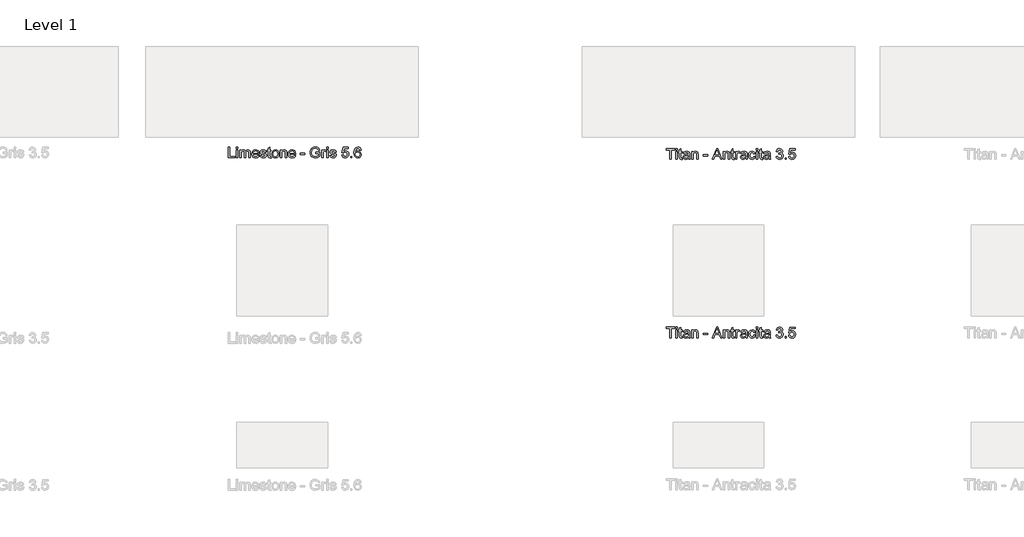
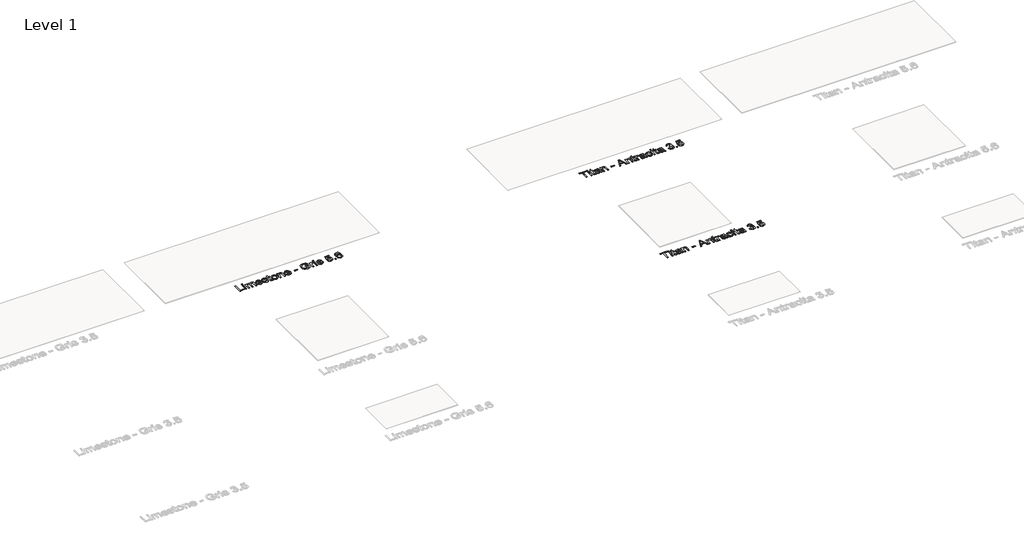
# One storey, part 7 of 80: 3 proxies.
"""IFC4 building model written with IfcOpenShell, lengths in millimetres."""

from ifc_helpers import new_model, si_unit, origin, origin_with_axes, place, context, project, spatial, polyline, outline, extrude, element, save

model = new_model("IFC4")

# Units and contexts
model_context = context("Model", 3, world=origin())
ifc_project = project(units=[si_unit("LENGTHUNIT", "METRE", prefix="MILLI")], contexts=[model_context])

# Site, building, storey
site = spatial("IfcSite", under=ifc_project)
building = spatial("IfcBuilding", under=site)
storey = spatial("IfcBuildingStorey", under=building, Name="Level 1", Elevation=0.0)

# Proxies
placement = place(None, origin())
element("IfcBuildingElementProxy", 1, Name="24\" Arial", ObjectType="24\" Arial", at=placement, inside=storey, context=model_context, shape_type="SweptSolid", body=[
    extrude(outline(polyline([(-15795.3838002, -16654.869717), (-15795.3838002, -16536.7158709), (-15780.6145694, -16536.7158709), (-15780.6145694, -16640.1004862), (-15721.5376464, -16640.1004862), (-15721.5376464, -16654.869717), (-15795.3838002, -16654.869717)])), origin_with_axes(), (0.0, 0.0, 1.0), 2.0),
    extrude(outline(polyline([(-15706.7684156, -16551.4851016), (-15706.7684156, -16536.7158709), (-15691.9991848, -16536.7158709), (-15691.9991848, -16551.4851016), (-15706.7684156, -16551.4851016)])), origin_with_axes(), (0.0, 0.0, 1.0), 2.0),
    extrude(outline(polyline([(-15706.7684156, -16654.869717), (-15706.7684156, -16568.1004862), (-15691.9991848, -16568.1004862), (-15691.9991848, -16654.869717), (-15706.7684156, -16654.869717)])), origin_with_axes(), (0.0, 0.0, 1.0), 2.0),
    extrude(outline(polyline([(-15669.8453387, -16654.869717), (-15669.8453387, -16568.1004862), (-15655.0761079, -16568.1004862), (-15655.0761079, -16582.3793324), (-15644.9222617, -16570.682217), (-15630.4703387, -16566.2543324), (-15615.6722617, -16570.7687555), (-15607.5376464, -16583.4177939), (-15596.0136079, -16570.5451978), (-15581.4607233, -16566.2543324), (-15570.3585598, -16568.0391882), (-15562.1482233, -16573.3937555), (-15557.074906, -16582.4622651), (-15555.3838002, -16595.3889478), (-15555.3838002, -16654.869717), (-15570.153031, -16654.869717), (-15570.153031, -16601.7351016), (-15571.5232233, -16589.4033709), (-15576.4847617, -16583.3312555), (-15584.9222617, -16581.0235632), (-15592.9234637, -16582.5019285), (-15599.4463002, -16586.9370247), (-15603.7840406, -16594.6317362), (-15605.2299541, -16605.8889478), (-15605.2299541, -16654.869717), (-15619.9991848, -16654.869717), (-15619.9991848, -16600.0908709), (-15623.4174541, -16585.7831785), (-15634.6241848, -16581.0235632), (-15645.5568771, -16584.1966401), (-15652.8261079, -16593.4851016), (-15655.0761079, -16611.1101016), (-15655.0761079, -16654.869717), (-15669.8453387, -16654.869717)])), origin_with_axes(), (0.0, 0.0, 1.0), 2.0),
    extrude(outline(polyline([(-15472.4799541, -16629.0235632), (-15457.9991848, -16630.869717), (-15463.2167329, -16641.7807747), (-15471.5424541, -16649.9370247), (-15482.7888483, -16655.0211593), (-15496.7684156, -16656.7158709), (-15514.0977425, -16653.791592), (-15527.4318771, -16645.0187555), (-15535.934281, -16630.9670728), (-15538.7684156, -16612.2062555), (-15535.9054348, -16592.8144285), (-15527.3164925, -16578.3120247), (-15514.1626464, -16569.2687555), (-15497.6049541, -16566.2543324), (-15481.5628867, -16569.2615439), (-15468.7443771, -16578.2831785), (-15460.3393291, -16592.7567362), (-15457.5376464, -16612.119717), (-15457.6241848, -16616.1004862), (-15523.9991848, -16616.1004862), (-15521.4426944, -16627.1557747), (-15515.5039925, -16635.2831785), (-15506.9330791, -16640.2807747), (-15496.4799541, -16641.9466401), (-15481.9991848, -16638.8601016), (-15472.4799541, -16629.0235632)]), holes=[polyline([(-15523.9991848, -16601.3312555), (-15472.3068771, -16601.3312555), (-15478.2203387, -16587.9466401), (-15486.8309156, -16582.7543324), (-15497.6626464, -16581.0235632), (-15515.8501464, -16586.5476016), (-15521.5725021, -16593.0055343), (-15523.9991848, -16601.3312555)])]), origin_with_axes(), (0.0, 0.0, 1.0), 2.0),
    extrude(outline(polyline([(-15448.3068771, -16629.0235632), (-15433.5376464, -16627.1774093), (-15426.7011079, -16638.1389478), (-15411.0376464, -16641.9466401), (-15395.9799541, -16638.4562555), (-15391.0761079, -16630.2639478), (-15396.0088002, -16623.6293324), (-15411.2107233, -16619.4177939), (-15433.4511079, -16612.1918324), (-15443.1578387, -16603.7543324), (-15446.4607233, -16591.8408709), (-15443.8068771, -16580.8360632), (-15436.5664925, -16572.4274093), (-15427.1770694, -16568.057217), (-15414.4703387, -16566.2543324), (-15396.4991848, -16569.1533709), (-15385.0761079, -16576.9995247), (-15379.9991848, -16590.2543324), (-15394.7684156, -16592.1004862), (-15400.3213002, -16583.9514478), (-15413.3164925, -16581.0235632), (-15427.4511079, -16583.8216401), (-15431.6914925, -16590.3408709), (-15429.9318771, -16594.6389478), (-15424.4222617, -16597.8985632), (-15411.7011079, -16601.0427939), (-15390.0232233, -16607.994717), (-15379.9559156, -16615.869717), (-15376.3068771, -16628.7062555), (-15380.590531, -16642.8408709), (-15392.9511079, -16653.0956785), (-15411.2395694, -16656.7158709), (-15426.1313964, -16654.9706785), (-15436.9991848, -16649.7351016), (-15444.2539925, -16641.0668324), (-15448.3068771, -16629.0235632)])), origin_with_axes(), (0.0, 0.0, 1.0), 2.0),
    extrude(outline(polyline([(-15328.3068771, -16642.5524093), (-15326.4607233, -16655.3024093), (-15337.5088002, -16656.7158709), (-15349.8838002, -16654.2639478), (-15356.0568771, -16647.8312555), (-15357.8453387, -16631.0716401), (-15357.8453387, -16582.869717), (-15368.9222617, -16582.869717), (-15368.9222617, -16568.1004862), (-15357.8453387, -16568.1004862), (-15357.8453387, -16547.0139478), (-15343.0761079, -16538.3312555), (-15343.0761079, -16568.1004862), (-15328.3068771, -16568.1004862), (-15328.3068771, -16582.869717), (-15343.0761079, -16582.869717), (-15343.0761079, -16630.6389478), (-15342.2972617, -16638.2543324), (-15339.7732233, -16640.9514478), (-15334.7395694, -16641.9466401), (-15328.3068771, -16642.5524093)])), origin_with_axes(), (0.0, 0.0, 1.0), 2.0),
    extrude(outline(polyline([(-15317.2299541, -16611.4851016), (-15314.0352425, -16590.5644285), (-15304.4511079, -16575.8601016), (-15292.6097617, -16568.6557747), (-15278.4318771, -16566.2543324), (-15262.9162521, -16569.1786112), (-15250.5232233, -16577.9514478), (-15242.3994252, -16591.8805343), (-15239.6914925, -16610.2735632), (-15244.4799541, -16636.5524093), (-15258.4270694, -16651.4226016), (-15278.4318771, -16656.7158709), (-15294.1350021, -16653.8024093), (-15306.5136079, -16645.0620247), (-15314.5508675, -16630.8408709), (-15317.2299541, -16611.4851016)]), holes=[polyline([(-15302.4607233, -16611.4562555), (-15300.7515887, -16624.822842), (-15295.6241848, -16634.3456785), (-15287.9078387, -16640.0463997), (-15278.4318771, -16641.9466401), (-15268.9991848, -16640.0355824), (-15261.2972617, -16634.3024093), (-15256.1698579, -16624.6533709), (-15254.4607233, -16610.994717), (-15256.1806752, -16598.0175535), (-15261.340531, -16588.6245247), (-15269.0532714, -16582.9238035), (-15278.4318771, -16581.0235632), (-15287.9078387, -16582.916592), (-15295.6241848, -16588.5956785), (-15300.7515887, -16598.0968805), (-15302.4607233, -16611.4562555)])]), origin_with_axes(), (0.0, 0.0, 1.0), 2.0),
    extrude(outline(polyline([(-15223.0761079, -16654.869717), (-15223.0761079, -16568.1004862), (-15208.3068771, -16568.1004862), (-15208.3068771, -16580.2158709), (-15197.0136079, -16569.744717), (-15181.5953387, -16566.2543324), (-15167.6482233, -16569.0668324), (-15158.1289925, -16576.4514478), (-15153.7011079, -16587.3120247), (-15152.9222617, -16601.5908709), (-15152.9222617, -16654.869717), (-15167.6914925, -16654.869717), (-15167.6914925, -16603.5812555), (-15169.3934156, -16590.5139478), (-15175.4078387, -16583.6052939), (-15185.5472617, -16581.0235632), (-15201.5713002, -16586.8216401), (-15206.6229829, -16595.2230824), (-15208.3068771, -16608.8312555), (-15208.3068771, -16654.869717), (-15223.0761079, -16654.869717)])), origin_with_axes(), (0.0, 0.0, 1.0), 2.0),
    extrude(outline(polyline([(-15071.8645694, -16629.0235632), (-15057.3838002, -16630.869717), (-15062.6013483, -16641.7807747), (-15070.9270694, -16649.9370247), (-15082.1734637, -16655.0211593), (-15096.153031, -16656.7158709), (-15113.4823579, -16653.791592), (-15126.8164925, -16645.0187555), (-15135.3188964, -16630.9670728), (-15138.153031, -16612.2062555), (-15135.2900502, -16592.8144285), (-15126.7011079, -16578.3120247), (-15113.5472617, -16569.2687555), (-15096.9895694, -16566.2543324), (-15080.9475021, -16569.2615439), (-15068.1289925, -16578.2831785), (-15059.7239444, -16592.7567362), (-15056.9222617, -16612.119717), (-15057.0088002, -16616.1004862), (-15123.3838002, -16616.1004862), (-15120.8273098, -16627.1557747), (-15114.8886079, -16635.2831785), (-15106.3176944, -16640.2807747), (-15095.8645694, -16641.9466401), (-15081.3838002, -16638.8601016), (-15071.8645694, -16629.0235632)]), holes=[polyline([(-15123.3838002, -16601.3312555), (-15071.6914925, -16601.3312555), (-15077.6049541, -16587.9466401), (-15086.215531, -16582.7543324), (-15097.0472617, -16581.0235632), (-15115.2347617, -16586.5476016), (-15120.9571175, -16593.0055343), (-15123.3838002, -16601.3312555)])]), origin_with_axes(), (0.0, 0.0, 1.0), 2.0),
    extrude(outline(polyline([(-15003.3838002, -16619.7927939), (-15003.3838002, -16605.0235632), (-14957.2299541, -16605.0235632), (-14957.2299541, -16619.7927939), (-15003.3838002, -16619.7927939)])), origin_with_axes(), (0.0, 0.0, 1.0), 2.0),
    extrude(outline(polyline([(-14837.2299541, -16608.7158709), (-14837.2299541, -16593.9466401), (-14789.2299541, -16593.9466401), (-14789.2299541, -16638.1101016), (-14812.9270694, -16652.0427939), (-14837.9799541, -16656.7158709), (-14854.5484637, -16654.8588997), (-14869.5232233, -16649.2879862), (-14881.9631271, -16640.197842), (-14890.9270694, -16627.7831785), (-14896.3465406, -16612.8913516), (-14898.153031, -16596.369717), (-14896.3537521, -16579.729092), (-14890.9559156, -16564.2495247), (-14882.1830791, -16551.2651497), (-14870.2588002, -16542.1101016), (-14855.7347617, -16536.6798132), (-14839.1626464, -16534.869717), (-14816.0568771, -16539.0668324), (-14799.8597617, -16550.7495247), (-14790.9318771, -16570.2927939), (-14804.5472617, -16574.1293324), (-14811.2828387, -16560.4706785), (-14822.7924541, -16552.5956785), (-14839.3934156, -16549.6389478), (-14858.3020694, -16552.8264478), (-14871.1674541, -16561.1918324), (-14878.7684156, -16572.5716401), (-14883.3838002, -16595.7639478), (-14881.9955791, -16609.8877459), (-14877.8309156, -16621.5091401), (-14871.0160117, -16630.5451978), (-14861.6770694, -16636.9129862), (-14839.1626464, -16641.9466401), (-14818.9559156, -16638.1533709), (-14803.9991848, -16630.0620247), (-14803.9991848, -16608.7158709), (-14837.2299541, -16608.7158709)])), origin_with_axes(), (0.0, 0.0, 1.0), 2.0),
    extrude(outline(polyline([(-14767.0761079, -16654.869717), (-14767.0761079, -16568.1004862), (-14754.153031, -16568.1004862), (-14754.153031, -16580.9370247), (-14744.9799541, -16569.1101016), (-14735.7491848, -16566.2543324), (-14720.9222617, -16570.8120247), (-14725.8549541, -16584.0524093), (-14736.2395694, -16581.0235632), (-14744.590531, -16583.9370247), (-14749.9126464, -16592.0139478), (-14752.3068771, -16609.2639478), (-14752.3068771, -16654.869717), (-14767.0761079, -16654.869717)])), origin_with_axes(), (0.0, 0.0, 1.0), 2.0),
    extrude(outline(polyline([(-14711.6914925, -16551.4851016), (-14711.6914925, -16536.7158709), (-14696.9222617, -16536.7158709), (-14696.9222617, -16551.4851016), (-14711.6914925, -16551.4851016)])), origin_with_axes(), (0.0, 0.0, 1.0), 2.0),
    extrude(outline(polyline([(-14711.6914925, -16654.869717), (-14711.6914925, -16568.1004862), (-14696.9222617, -16568.1004862), (-14696.9222617, -16654.869717), (-14711.6914925, -16654.869717)])), origin_with_axes(), (0.0, 0.0, 1.0), 2.0),
    extrude(outline(polyline([(-14680.3068771, -16629.0235632), (-14665.5376464, -16627.1774093), (-14658.7011079, -16638.1389478), (-14643.0376464, -16641.9466401), (-14627.9799541, -16638.4562555), (-14623.0761079, -16630.2639478), (-14628.0088002, -16623.6293324), (-14643.2107233, -16619.4177939), (-14665.4511079, -16612.1918324), (-14675.1578387, -16603.7543324), (-14678.4607233, -16591.8408709), (-14675.8068771, -16580.8360632), (-14668.5664925, -16572.4274093), (-14659.1770694, -16568.057217), (-14646.4703387, -16566.2543324), (-14628.4991848, -16569.1533709), (-14617.0761079, -16576.9995247), (-14611.9991848, -16590.2543324), (-14626.7684156, -16592.1004862), (-14632.3213002, -16583.9514478), (-14645.3164925, -16581.0235632), (-14659.4511079, -16583.8216401), (-14663.6914925, -16590.3408709), (-14661.9318771, -16594.6389478), (-14656.4222617, -16597.8985632), (-14643.7011079, -16601.0427939), (-14622.0232233, -16607.994717), (-14611.9559156, -16615.869717), (-14608.3068771, -16628.7062555), (-14612.590531, -16642.8408709), (-14624.9511079, -16653.0956785), (-14643.2395694, -16656.7158709), (-14658.1313964, -16654.9706785), (-14668.9991848, -16649.7351016), (-14676.2539925, -16641.0668324), (-14680.3068771, -16629.0235632)])), origin_with_axes(), (0.0, 0.0, 1.0), 2.0),
    extrude(outline(polyline([(-14549.2299541, -16623.4851016), (-14534.4607233, -16621.6389478), (-14527.0184156, -16636.8552939), (-14511.5857233, -16641.9466401), (-14500.9991848, -16640.1762074), (-14493.0664925, -16634.8649093), (-14488.1121656, -16626.6257266), (-14486.4607233, -16616.0716401), (-14488.0075983, -16606.1341401), (-14492.6482233, -16598.5331785), (-14500.418656, -16593.7086593), (-14511.3549541, -16592.1004862), (-14524.3213002, -16594.6677939), (-14532.6145694, -16601.3312555), (-14547.3838002, -16599.4851016), (-14534.4607233, -16538.5620247), (-14477.2299541, -16538.5620247), (-14477.2299541, -16553.3312555), (-14522.5184156, -16553.3312555), (-14528.8357233, -16585.869717), (-14518.2852425, -16579.4658709), (-14507.2299541, -16577.3312555), (-14493.4306752, -16579.9778901), (-14481.9751464, -16587.9177939), (-14474.262406, -16600.0187555), (-14471.6914925, -16615.1485632), (-14474.0063964, -16629.9177939), (-14480.9511079, -16642.5524093), (-14494.2491848, -16653.1750055), (-14511.6434156, -16656.7158709), (-14526.1494252, -16654.4406305), (-14537.7059156, -16647.6149093), (-14545.6277906, -16637.0319766), (-14549.2299541, -16623.4851016)])), origin_with_axes(), (0.0, 0.0, 1.0), 2.0),
    extrude(outline(polyline([(-14451.3838002, -16654.869717), (-14451.3838002, -16640.1004862), (-14436.6145694, -16640.1004862), (-14436.6145694, -16654.869717), (-14451.3838002, -16654.869717)])), origin_with_axes(), (0.0, 0.0, 1.0), 2.0),
    extrude(outline(polyline([(-14336.9222617, -16568.1004862), (-14351.6914925, -16569.9466401), (-14357.2876464, -16557.6293324), (-14363.9871656, -16553.0211593), (-14372.0857233, -16551.4851016), (-14385.4126464, -16555.0620247), (-14395.4943771, -16568.4899093), (-14399.6914925, -16594.8120247), (-14386.6674541, -16583.0283709), (-14370.528031, -16579.1774093), (-14356.8838002, -16581.8096209), (-14345.4318771, -16589.7062555), (-14337.6650502, -16601.7711593), (-14335.0761079, -16616.9081785), (-14339.9511079, -16637.2879862), (-14353.3645694, -16651.7110632), (-14372.7203387, -16656.7158709), (-14389.4763483, -16653.3985632), (-14402.8213002, -16643.4466401), (-14411.5508675, -16625.8793324), (-14414.4607233, -16599.7158709), (-14411.2299541, -16570.3000055), (-14401.5376464, -16550.1870247), (-14388.3044733, -16540.0836593), (-14371.1626464, -16536.7158709), (-14358.2035117, -16538.8000055), (-14347.8261079, -16545.0524093), (-14340.5568771, -16554.9826978), (-14336.9222617, -16568.1004862)]), holes=[polyline([(-14399.6914925, -16616.6774093), (-14396.2732233, -16629.4706785), (-14387.1866848, -16638.7591401), (-14373.8741848, -16641.9466401), (-14364.1277906, -16640.2951978), (-14356.465531, -16635.3408709), (-14351.5003867, -16627.5524093), (-14349.8453387, -16617.3985632), (-14351.4787521, -16607.6521689), (-14356.3789925, -16600.2206785), (-14364.1710598, -16595.5151497), (-14374.4799541, -16593.9466401), (-14384.2119252, -16595.5151497), (-14392.3501464, -16600.2206785), (-14397.856156, -16607.4718805), (-14399.6914925, -16616.6774093)])]), origin_with_axes(), (0.0, 0.0, 1.0), 2.0),
])
element("IfcBuildingElementProxy", 2, Name="24\" Arial", ObjectType="24\" Arial", at=placement, inside=storey, context=model_context, shape_type="SweptSolid", body=[
    extrude(outline(polyline([(-10942.7684156, -16671.3584739), (-10942.7684156, -16567.9738585), (-10981.5376464, -16567.9738585), (-10981.5376464, -16553.2046277), (-10889.2299541, -16553.2046277), (-10889.2299541, -16567.9738585), (-10927.9991848, -16567.9738585), (-10927.9991848, -16671.3584739), (-10942.7684156, -16671.3584739)])), origin_with_axes(), (0.0, 0.0, 1.0), 2.0),
    extrude(outline(polyline([(-10874.4607233, -16671.3584739), (-10874.4607233, -16584.5892431), (-10859.6914925, -16584.5892431), (-10859.6914925, -16671.3584739), (-10874.4607233, -16671.3584739)])), origin_with_axes(), (0.0, 0.0, 1.0), 2.0),
    extrude(outline(polyline([(-10874.4607233, -16567.9738585), (-10874.4607233, -16553.2046277), (-10859.6914925, -16553.2046277), (-10859.6914925, -16567.9738585), (-10874.4607233, -16567.9738585)])), origin_with_axes(), (0.0, 0.0, 1.0), 2.0),
    extrude(outline(polyline([(-10806.153031, -16659.0411662), (-10804.3068771, -16671.7911662), (-10815.3549541, -16673.2046277), (-10827.7299541, -16670.7527046), (-10833.903031, -16664.3200123), (-10835.6914925, -16647.560397), (-10835.6914925, -16599.3584739), (-10846.7684156, -16599.3584739), (-10846.7684156, -16584.5892431), (-10835.6914925, -16584.5892431), (-10835.6914925, -16563.5027046), (-10820.9222617, -16554.8200123), (-10820.9222617, -16584.5892431), (-10806.153031, -16584.5892431), (-10806.153031, -16599.3584739), (-10820.9222617, -16599.3584739), (-10820.9222617, -16647.1277046), (-10820.1434156, -16654.7430893), (-10817.6193771, -16657.4402046), (-10812.5857233, -16658.435397), (-10806.153031, -16659.0411662)])), origin_with_axes(), (0.0, 0.0, 1.0), 2.0),
    extrude(outline(polyline([(-10735.9991848, -16660.2815508), (-10750.3213002, -16670.2911662), (-10766.1434156, -16673.2046277), (-10778.4859637, -16671.4522239), (-10787.590531, -16666.1950123), (-10793.2047137, -16658.2118393), (-10795.0761079, -16648.2815508), (-10792.2491848, -16636.5988585), (-10784.8213002, -16628.1180893), (-10774.4799541, -16623.2719354), (-10761.7011079, -16621.0507816), (-10736.0857233, -16615.9738585), (-10735.9991848, -16612.685397), (-10740.0664925, -16601.7815508), (-10756.3934156, -16597.51232), (-10771.3357233, -16600.3536662), (-10778.4607233, -16610.435397), (-10793.2299541, -16608.5892431), (-10786.840531, -16594.1661662), (-10773.9751464, -16585.7142431), (-10754.4895694, -16582.7430893), (-10736.590531, -16585.3680893), (-10726.4799541, -16591.9594354), (-10721.9511079, -16601.9834739), (-10721.2299541, -16614.9065508), (-10721.2299541, -16633.2815508), (-10720.4799541, -16658.9402046), (-10717.5376464, -16671.3584739), (-10732.3068771, -16671.3584739), (-10735.9991848, -16660.2815508)]), holes=[polyline([(-10735.9991848, -16630.7430893), (-10759.8261079, -16635.2719354), (-10772.5328387, -16637.6661662), (-10778.2876464, -16641.560397), (-10780.3068771, -16647.2430893), (-10775.9078387, -16655.2334739), (-10762.9991848, -16658.435397), (-10748.0568771, -16654.9017431), (-10738.4222617, -16646.3488585), (-10736.0857233, -16634.9257816), (-10735.9991848, -16630.7430893)])]), origin_with_axes(), (0.0, 0.0, 1.0), 2.0),
    extrude(outline(polyline([(-10700.9222617, -16671.3584739), (-10700.9222617, -16584.5892431), (-10686.153031, -16584.5892431), (-10686.153031, -16596.7046277), (-10674.8597617, -16586.2334739), (-10659.4414925, -16582.7430893), (-10645.4943771, -16585.5555893), (-10635.9751464, -16592.9402046), (-10631.5472617, -16603.8007816), (-10630.7684156, -16618.0796277), (-10630.7684156, -16671.3584739), (-10645.5376464, -16671.3584739), (-10645.5376464, -16620.0700123), (-10647.2395694, -16607.0027046), (-10653.2539925, -16600.0940508), (-10663.3934156, -16597.51232), (-10679.4174541, -16603.310397), (-10684.4691367, -16611.7118393), (-10686.153031, -16625.3200123), (-10686.153031, -16671.3584739), (-10700.9222617, -16671.3584739)])), origin_with_axes(), (0.0, 0.0, 1.0), 2.0),
    extrude(outline(polyline([(-10571.6914925, -16636.2815508), (-10571.6914925, -16621.51232), (-10525.5376464, -16621.51232), (-10525.5376464, -16636.2815508), (-10571.6914925, -16636.2815508)])), origin_with_axes(), (0.0, 0.0, 1.0), 2.0),
    extrude(outline(polyline([(-10474.6818771, -16671.3584739), (-10427.5184156, -16553.2046277), (-10414.9414925, -16553.2046277), (-10367.778031, -16671.3584739), (-10383.3838002, -16671.3584739), (-10396.9126464, -16634.435397), (-10445.5761079, -16634.435397), (-10459.0761079, -16671.3584739), (-10474.6818771, -16671.3584739)]), holes=[polyline([(-10440.153031, -16619.6661662), (-10402.3068771, -16619.6661662), (-10412.9511079, -16590.6180893), (-10421.2299541, -16567.9738585), (-10428.5857233, -16588.0796277), (-10440.153031, -16619.6661662)])]), origin_with_axes(), (0.0, 0.0, 1.0), 2.0),
    extrude(outline(polyline([(-10353.8453387, -16671.3584739), (-10353.8453387, -16584.5892431), (-10339.0761079, -16584.5892431), (-10339.0761079, -16596.7046277), (-10327.7828387, -16586.2334739), (-10312.3645694, -16582.7430893), (-10298.4174541, -16585.5555893), (-10288.8982233, -16592.9402046), (-10284.4703387, -16603.8007816), (-10283.6914925, -16618.0796277), (-10283.6914925, -16671.3584739), (-10298.4607233, -16671.3584739), (-10298.4607233, -16620.0700123), (-10300.1626464, -16607.0027046), (-10306.1770694, -16600.0940508), (-10316.3164925, -16597.51232), (-10332.340531, -16603.310397), (-10337.3922137, -16611.7118393), (-10339.0761079, -16625.3200123), (-10339.0761079, -16671.3584739), (-10353.8453387, -16671.3584739)])), origin_with_axes(), (0.0, 0.0, 1.0), 2.0),
    extrude(outline(polyline([(-10231.9991848, -16659.0411662), (-10230.153031, -16671.7911662), (-10241.2011079, -16673.2046277), (-10253.5761079, -16670.7527046), (-10259.7491848, -16664.3200123), (-10261.5376464, -16647.560397), (-10261.5376464, -16599.3584739), (-10272.6145694, -16599.3584739), (-10272.6145694, -16584.5892431), (-10261.5376464, -16584.5892431), (-10261.5376464, -16563.5027046), (-10246.7684156, -16554.8200123), (-10246.7684156, -16584.5892431), (-10231.9991848, -16584.5892431), (-10231.9991848, -16599.3584739), (-10246.7684156, -16599.3584739), (-10246.7684156, -16647.1277046), (-10245.9895694, -16654.7430893), (-10243.465531, -16657.4402046), (-10238.4318771, -16658.435397), (-10231.9991848, -16659.0411662)])), origin_with_axes(), (0.0, 0.0, 1.0), 2.0),
    extrude(outline(polyline([(-10217.2299541, -16671.3584739), (-10217.2299541, -16584.5892431), (-10204.3068771, -16584.5892431), (-10204.3068771, -16597.4257816), (-10195.1338002, -16585.5988585), (-10185.903031, -16582.7430893), (-10171.0761079, -16587.3007816), (-10176.0088002, -16600.5411662), (-10186.3934156, -16597.51232), (-10194.7443771, -16600.4257816), (-10200.0664925, -16608.5027046), (-10202.4607233, -16625.7527046), (-10202.4607233, -16671.3584739), (-10217.2299541, -16671.3584739)])), origin_with_axes(), (0.0, 0.0, 1.0), 2.0),
    extrude(outline(polyline([(-10106.4607233, -16660.2815508), (-10120.7828387, -16670.2911662), (-10136.6049541, -16673.2046277), (-10148.9475021, -16671.4522239), (-10158.0520694, -16666.1950123), (-10163.6662521, -16658.2118393), (-10165.5376464, -16648.2815508), (-10162.7107233, -16636.5988585), (-10155.2828387, -16628.1180893), (-10144.9414925, -16623.2719354), (-10132.1626464, -16621.0507816), (-10106.5472617, -16615.9738585), (-10106.4607233, -16612.685397), (-10110.528031, -16601.7815508), (-10126.8549541, -16597.51232), (-10141.7972617, -16600.3536662), (-10148.9222617, -16610.435397), (-10163.6914925, -16608.5892431), (-10157.3020694, -16594.1661662), (-10144.4366848, -16585.7142431), (-10124.9511079, -16582.7430893), (-10107.0520694, -16585.3680893), (-10096.9414925, -16591.9594354), (-10092.4126464, -16601.9834739), (-10091.6914925, -16614.9065508), (-10091.6914925, -16633.2815508), (-10090.9414925, -16658.9402046), (-10087.9991848, -16671.3584739), (-10102.7684156, -16671.3584739), (-10106.4607233, -16660.2815508)]), holes=[polyline([(-10106.4607233, -16630.7430893), (-10130.2876464, -16635.2719354), (-10142.9943771, -16637.6661662), (-10148.7491848, -16641.560397), (-10150.7684156, -16647.2430893), (-10146.3693771, -16655.2334739), (-10133.4607233, -16658.435397), (-10118.5184156, -16654.9017431), (-10108.8838002, -16646.3488585), (-10106.5472617, -16634.9257816), (-10106.4607233, -16630.7430893)])]), origin_with_axes(), (0.0, 0.0, 1.0), 2.0),
    extrude(outline(polyline([(-10015.9991848, -16639.9738585), (-10001.2299541, -16641.8200123), (-10005.3477425, -16654.9558296), (-10013.0857233, -16664.8825123), (-10023.715531, -16671.1240989), (-10036.5088002, -16673.2046277), (-10052.2191367, -16670.3019835), (-10064.5039925, -16661.5940508), (-10072.4330791, -16647.4630412), (-10075.0761079, -16628.2911662), (-10070.5616848, -16603.7575123), (-10064.8645694, -16594.559195), (-10056.8020694, -16587.9930893), (-10036.7107233, -16582.7430893), (-10024.231156, -16584.5459739), (-10014.2539925, -16589.9546277), (-10007.0965406, -16598.6805893), (-10003.0761079, -16610.435397), (-10017.8453387, -16612.2815508), (-10024.6963002, -16601.2190508), (-10036.5953387, -16597.51232), (-10046.1398098, -16599.3368393), (-10053.715531, -16604.810397), (-10058.6590406, -16614.2286662), (-10060.3068771, -16627.88732), (-10058.6950983, -16641.7298681), (-10053.8597617, -16651.1805893), (-10046.4210598, -16656.621695), (-10036.9991848, -16658.435397), (-10023.0809156, -16653.9065508), (-10015.9991848, -16639.9738585)])), origin_with_axes(), (0.0, 0.0, 1.0), 2.0),
    extrude(outline(polyline([(-9988.3068771, -16671.3584739), (-9988.3068771, -16584.5892431), (-9973.5376464, -16584.5892431), (-9973.5376464, -16671.3584739), (-9988.3068771, -16671.3584739)])), origin_with_axes(), (0.0, 0.0, 1.0), 2.0),
    extrude(outline(polyline([(-9988.3068771, -16567.9738585), (-9988.3068771, -16553.2046277), (-9973.5376464, -16553.2046277), (-9973.5376464, -16567.9738585), (-9988.3068771, -16567.9738585)])), origin_with_axes(), (0.0, 0.0, 1.0), 2.0),
    extrude(outline(polyline([(-9919.9991848, -16659.0411662), (-9918.153031, -16671.7911662), (-9929.2011079, -16673.2046277), (-9941.5761079, -16670.7527046), (-9947.7491848, -16664.3200123), (-9949.5376464, -16647.560397), (-9949.5376464, -16599.3584739), (-9960.6145694, -16599.3584739), (-9960.6145694, -16584.5892431), (-9949.5376464, -16584.5892431), (-9949.5376464, -16563.5027046), (-9934.7684156, -16554.8200123), (-9934.7684156, -16584.5892431), (-9919.9991848, -16584.5892431), (-9919.9991848, -16599.3584739), (-9934.7684156, -16599.3584739), (-9934.7684156, -16647.1277046), (-9933.9895694, -16654.7430893), (-9931.465531, -16657.4402046), (-9926.4318771, -16658.435397), (-9919.9991848, -16659.0411662)])), origin_with_axes(), (0.0, 0.0, 1.0), 2.0),
    extrude(outline(polyline([(-9849.8453387, -16660.2815508), (-9864.1674541, -16670.2911662), (-9879.9895694, -16673.2046277), (-9892.3321175, -16671.4522239), (-9901.4366848, -16666.1950123), (-9907.0508675, -16658.2118393), (-9908.9222617, -16648.2815508), (-9906.0953387, -16636.5988585), (-9898.6674541, -16628.1180893), (-9888.3261079, -16623.2719354), (-9875.5472617, -16621.0507816), (-9849.9318771, -16615.9738585), (-9849.8453387, -16612.685397), (-9853.9126464, -16601.7815508), (-9870.2395694, -16597.51232), (-9885.1818771, -16600.3536662), (-9892.3068771, -16610.435397), (-9907.0761079, -16608.5892431), (-9900.6866848, -16594.1661662), (-9887.8213002, -16585.7142431), (-9868.3357233, -16582.7430893), (-9850.4366848, -16585.3680893), (-9840.3261079, -16591.9594354), (-9835.7972617, -16601.9834739), (-9835.0761079, -16614.9065508), (-9835.0761079, -16633.2815508), (-9834.3261079, -16658.9402046), (-9831.3838002, -16671.3584739), (-9846.153031, -16671.3584739), (-9849.8453387, -16660.2815508)]), holes=[polyline([(-9849.8453387, -16630.7430893), (-9873.6722617, -16635.2719354), (-9886.3789925, -16637.6661662), (-9892.1338002, -16641.560397), (-9894.153031, -16647.2430893), (-9889.7539925, -16655.2334739), (-9876.8453387, -16658.435397), (-9861.903031, -16654.9017431), (-9852.2684156, -16646.3488585), (-9849.9318771, -16634.9257816), (-9849.8453387, -16630.7430893)])]), origin_with_axes(), (0.0, 0.0, 1.0), 2.0),
    extrude(outline(polyline([(-9772.3068771, -16639.9738585), (-9757.5376464, -16638.1277046), (-9749.3886079, -16653.6757816), (-9734.1434156, -16658.435397), (-9724.0184156, -16656.7983777), (-9716.2011079, -16651.88732), (-9711.2035117, -16644.560397), (-9709.5376464, -16635.6757816), (-9711.1890887, -16627.2418873), (-9716.1434156, -16620.4017431), (-9723.6434156, -16615.8692912), (-9732.9318771, -16614.3584739), (-9743.2876464, -16615.9738585), (-9741.6434156, -16601.2046277), (-9739.278031, -16601.3777046), (-9722.5184156, -16597.13732), (-9716.9366848, -16591.7575123), (-9715.0761079, -16584.0988585), (-9720.4703387, -16572.5459739), (-9734.3741848, -16567.9738585), (-9748.4511079, -16572.5892431), (-9755.6914925, -16586.435397), (-9770.4607233, -16584.5892431), (-9766.1121656, -16571.3272239), (-9758.3741848, -16561.4257816), (-9747.7876464, -16555.2599162), (-9734.8934156, -16553.2046277), (-9717.0809156, -16557.2575123), (-9704.6193771, -16568.3344354), (-9700.3068771, -16583.2334739), (-9704.403031, -16596.8488585), (-9716.5184156, -16606.6277046), (-9707.2732233, -16610.3632816), (-9700.4222617, -16616.7238585), (-9696.1818771, -16625.3632816), (-9694.7684156, -16635.935397), (-9697.5953387, -16650.3296277), (-9706.0761079, -16662.3584739), (-9718.8765887, -16670.4930893), (-9734.6626464, -16673.2046277), (-9748.9414925, -16670.8897239), (-9760.5664925, -16663.9450123), (-9768.6506271, -16653.3224162), (-9772.3068771, -16639.9738585)])), origin_with_axes(), (0.0, 0.0, 1.0), 2.0),
    extrude(outline(polyline([(-9674.4607233, -16671.3584739), (-9674.4607233, -16656.5892431), (-9659.6914925, -16656.5892431), (-9659.6914925, -16671.3584739), (-9674.4607233, -16671.3584739)])), origin_with_axes(), (0.0, 0.0, 1.0), 2.0),
    extrude(outline(polyline([(-9635.6914925, -16639.9738585), (-9620.9222617, -16638.1277046), (-9613.4799541, -16653.3440508), (-9598.0472617, -16658.435397), (-9587.4607233, -16656.6649643), (-9579.528031, -16651.3536662), (-9574.5737041, -16643.1144835), (-9572.9222617, -16632.560397), (-9574.4691367, -16622.622897), (-9579.1097617, -16615.0219354), (-9586.8801944, -16610.1974162), (-9597.8164925, -16608.5892431), (-9610.7828387, -16611.1565508), (-9619.0761079, -16617.8200123), (-9633.8453387, -16615.9738585), (-9620.9222617, -16555.0507816), (-9563.6914925, -16555.0507816), (-9563.6914925, -16569.8200123), (-9608.9799541, -16569.8200123), (-9615.2972617, -16602.3584739), (-9604.746781, -16595.9546277), (-9593.6914925, -16593.8200123), (-9579.8922137, -16596.466647), (-9568.4366848, -16604.4065508), (-9560.7239444, -16616.5075123), (-9558.153031, -16631.63732), (-9560.4679348, -16646.4065508), (-9567.4126464, -16659.0411662), (-9580.7107233, -16669.6637623), (-9598.1049541, -16673.2046277), (-9612.6109637, -16670.9293873), (-9624.1674541, -16664.1036662), (-9632.0893291, -16653.5207335), (-9635.6914925, -16639.9738585)])), origin_with_axes(), (0.0, 0.0, 1.0), 2.0),
])
element("IfcBuildingElementProxy", 3, Name="24\" Arial", ObjectType="24\" Arial", at=placement, inside=storey, context=model_context, shape_type="SweptSolid", body=[
    extrude(outline(polyline([(-10942.7684156, -18636.6855167), (-10942.7684156, -18533.3009013), (-10981.5376464, -18533.3009013), (-10981.5376464, -18518.5316705), (-10889.2299541, -18518.5316705), (-10889.2299541, -18533.3009013), (-10927.9991848, -18533.3009013), (-10927.9991848, -18636.6855167), (-10942.7684156, -18636.6855167)])), origin_with_axes(), (0.0, 0.0, 1.0), 2.0),
    extrude(outline(polyline([(-10874.4607233, -18636.6855167), (-10874.4607233, -18549.9162859), (-10859.6914925, -18549.9162859), (-10859.6914925, -18636.6855167), (-10874.4607233, -18636.6855167)])), origin_with_axes(), (0.0, 0.0, 1.0), 2.0),
    extrude(outline(polyline([(-10874.4607233, -18533.3009013), (-10874.4607233, -18518.5316705), (-10859.6914925, -18518.5316705), (-10859.6914925, -18533.3009013), (-10874.4607233, -18533.3009013)])), origin_with_axes(), (0.0, 0.0, 1.0), 2.0),
    extrude(outline(polyline([(-10806.153031, -18624.368209), (-10804.3068771, -18637.118209), (-10815.3549541, -18638.5316705), (-10827.7299541, -18636.0797474), (-10833.903031, -18629.6470551), (-10835.6914925, -18612.8874398), (-10835.6914925, -18564.6855167), (-10846.7684156, -18564.6855167), (-10846.7684156, -18549.9162859), (-10835.6914925, -18549.9162859), (-10835.6914925, -18528.8297474), (-10820.9222617, -18520.1470551), (-10820.9222617, -18549.9162859), (-10806.153031, -18549.9162859), (-10806.153031, -18564.6855167), (-10820.9222617, -18564.6855167), (-10820.9222617, -18612.4547474), (-10820.1434156, -18620.0701321), (-10817.6193771, -18622.7672474), (-10812.5857233, -18623.7624398), (-10806.153031, -18624.368209)])), origin_with_axes(), (0.0, 0.0, 1.0), 2.0),
    extrude(outline(polyline([(-10735.9991848, -18625.6085936), (-10750.3213002, -18635.618209), (-10766.1434156, -18638.5316705), (-10778.4859637, -18636.7792667), (-10787.590531, -18631.5220551), (-10793.2047137, -18623.5388821), (-10795.0761079, -18613.6085936), (-10792.2491848, -18601.9259013), (-10784.8213002, -18593.4451321), (-10774.4799541, -18588.5989782), (-10761.7011079, -18586.3778244), (-10736.0857233, -18581.3009013), (-10735.9991848, -18578.0124398), (-10740.0664925, -18567.1085936), (-10756.3934156, -18562.8393628), (-10771.3357233, -18565.680709), (-10778.4607233, -18575.7624398), (-10793.2299541, -18573.9162859), (-10786.840531, -18559.493209), (-10773.9751464, -18551.0412859), (-10754.4895694, -18548.0701321), (-10736.590531, -18550.6951321), (-10726.4799541, -18557.2864782), (-10721.9511079, -18567.3105167), (-10721.2299541, -18580.2335936), (-10721.2299541, -18598.6085936), (-10720.4799541, -18624.2672474), (-10717.5376464, -18636.6855167), (-10732.3068771, -18636.6855167), (-10735.9991848, -18625.6085936)]), holes=[polyline([(-10735.9991848, -18596.0701321), (-10759.8261079, -18600.5989782), (-10772.5328387, -18602.993209), (-10778.2876464, -18606.8874398), (-10780.3068771, -18612.5701321), (-10775.9078387, -18620.5605167), (-10762.9991848, -18623.7624398), (-10748.0568771, -18620.2287859), (-10738.4222617, -18611.6759013), (-10736.0857233, -18600.2528244), (-10735.9991848, -18596.0701321)])]), origin_with_axes(), (0.0, 0.0, 1.0), 2.0),
    extrude(outline(polyline([(-10700.9222617, -18636.6855167), (-10700.9222617, -18549.9162859), (-10686.153031, -18549.9162859), (-10686.153031, -18562.0316705), (-10674.8597617, -18551.5605167), (-10659.4414925, -18548.0701321), (-10645.4943771, -18550.8826321), (-10635.9751464, -18558.2672474), (-10631.5472617, -18569.1278244), (-10630.7684156, -18583.4066705), (-10630.7684156, -18636.6855167), (-10645.5376464, -18636.6855167), (-10645.5376464, -18585.3970551), (-10647.2395694, -18572.3297474), (-10653.2539925, -18565.4210936), (-10663.3934156, -18562.8393628), (-10679.4174541, -18568.6374398), (-10684.4691367, -18577.0388821), (-10686.153031, -18590.6470551), (-10686.153031, -18636.6855167), (-10700.9222617, -18636.6855167)])), origin_with_axes(), (0.0, 0.0, 1.0), 2.0),
    extrude(outline(polyline([(-10571.6914925, -18601.6085936), (-10571.6914925, -18586.8393628), (-10525.5376464, -18586.8393628), (-10525.5376464, -18601.6085936), (-10571.6914925, -18601.6085936)])), origin_with_axes(), (0.0, 0.0, 1.0), 2.0),
    extrude(outline(polyline([(-10474.6818771, -18636.6855167), (-10427.5184156, -18518.5316705), (-10414.9414925, -18518.5316705), (-10367.778031, -18636.6855167), (-10383.3838002, -18636.6855167), (-10396.9126464, -18599.7624398), (-10445.5761079, -18599.7624398), (-10459.0761079, -18636.6855167), (-10474.6818771, -18636.6855167)]), holes=[polyline([(-10440.153031, -18584.993209), (-10402.3068771, -18584.993209), (-10412.9511079, -18555.9451321), (-10421.2299541, -18533.3009013), (-10428.5857233, -18553.4066705), (-10440.153031, -18584.993209)])]), origin_with_axes(), (0.0, 0.0, 1.0), 2.0),
    extrude(outline(polyline([(-10353.8453387, -18636.6855167), (-10353.8453387, -18549.9162859), (-10339.0761079, -18549.9162859), (-10339.0761079, -18562.0316705), (-10327.7828387, -18551.5605167), (-10312.3645694, -18548.0701321), (-10298.4174541, -18550.8826321), (-10288.8982233, -18558.2672474), (-10284.4703387, -18569.1278244), (-10283.6914925, -18583.4066705), (-10283.6914925, -18636.6855167), (-10298.4607233, -18636.6855167), (-10298.4607233, -18585.3970551), (-10300.1626464, -18572.3297474), (-10306.1770694, -18565.4210936), (-10316.3164925, -18562.8393628), (-10332.340531, -18568.6374398), (-10337.3922137, -18577.0388821), (-10339.0761079, -18590.6470551), (-10339.0761079, -18636.6855167), (-10353.8453387, -18636.6855167)])), origin_with_axes(), (0.0, 0.0, 1.0), 2.0),
    extrude(outline(polyline([(-10231.9991848, -18624.368209), (-10230.153031, -18637.118209), (-10241.2011079, -18638.5316705), (-10253.5761079, -18636.0797474), (-10259.7491848, -18629.6470551), (-10261.5376464, -18612.8874398), (-10261.5376464, -18564.6855167), (-10272.6145694, -18564.6855167), (-10272.6145694, -18549.9162859), (-10261.5376464, -18549.9162859), (-10261.5376464, -18528.8297474), (-10246.7684156, -18520.1470551), (-10246.7684156, -18549.9162859), (-10231.9991848, -18549.9162859), (-10231.9991848, -18564.6855167), (-10246.7684156, -18564.6855167), (-10246.7684156, -18612.4547474), (-10245.9895694, -18620.0701321), (-10243.465531, -18622.7672474), (-10238.4318771, -18623.7624398), (-10231.9991848, -18624.368209)])), origin_with_axes(), (0.0, 0.0, 1.0), 2.0),
    extrude(outline(polyline([(-10217.2299541, -18636.6855167), (-10217.2299541, -18549.9162859), (-10204.3068771, -18549.9162859), (-10204.3068771, -18562.7528244), (-10195.1338002, -18550.9259013), (-10185.903031, -18548.0701321), (-10171.0761079, -18552.6278244), (-10176.0088002, -18565.868209), (-10186.3934156, -18562.8393628), (-10194.7443771, -18565.7528244), (-10200.0664925, -18573.8297474), (-10202.4607233, -18591.0797474), (-10202.4607233, -18636.6855167), (-10217.2299541, -18636.6855167)])), origin_with_axes(), (0.0, 0.0, 1.0), 2.0),
    extrude(outline(polyline([(-10106.4607233, -18625.6085936), (-10120.7828387, -18635.618209), (-10136.6049541, -18638.5316705), (-10148.9475021, -18636.7792667), (-10158.0520694, -18631.5220551), (-10163.6662521, -18623.5388821), (-10165.5376464, -18613.6085936), (-10162.7107233, -18601.9259013), (-10155.2828387, -18593.4451321), (-10144.9414925, -18588.5989782), (-10132.1626464, -18586.3778244), (-10106.5472617, -18581.3009013), (-10106.4607233, -18578.0124398), (-10110.528031, -18567.1085936), (-10126.8549541, -18562.8393628), (-10141.7972617, -18565.680709), (-10148.9222617, -18575.7624398), (-10163.6914925, -18573.9162859), (-10157.3020694, -18559.493209), (-10144.4366848, -18551.0412859), (-10124.9511079, -18548.0701321), (-10107.0520694, -18550.6951321), (-10096.9414925, -18557.2864782), (-10092.4126464, -18567.3105167), (-10091.6914925, -18580.2335936), (-10091.6914925, -18598.6085936), (-10090.9414925, -18624.2672474), (-10087.9991848, -18636.6855167), (-10102.7684156, -18636.6855167), (-10106.4607233, -18625.6085936)]), holes=[polyline([(-10106.4607233, -18596.0701321), (-10130.2876464, -18600.5989782), (-10142.9943771, -18602.993209), (-10148.7491848, -18606.8874398), (-10150.7684156, -18612.5701321), (-10146.3693771, -18620.5605167), (-10133.4607233, -18623.7624398), (-10118.5184156, -18620.2287859), (-10108.8838002, -18611.6759013), (-10106.5472617, -18600.2528244), (-10106.4607233, -18596.0701321)])]), origin_with_axes(), (0.0, 0.0, 1.0), 2.0),
    extrude(outline(polyline([(-10015.9991848, -18605.3009013), (-10001.2299541, -18607.1470551), (-10005.3477425, -18620.2828724), (-10013.0857233, -18630.2095551), (-10023.715531, -18636.4511417), (-10036.5088002, -18638.5316705), (-10052.2191367, -18635.6290263), (-10064.5039925, -18626.9210936), (-10072.4330791, -18612.790084), (-10075.0761079, -18593.618209), (-10070.5616848, -18569.0845551), (-10064.8645694, -18559.8862378), (-10056.8020694, -18553.3201321), (-10036.7107233, -18548.0701321), (-10024.231156, -18549.8730167), (-10014.2539925, -18555.2816705), (-10007.0965406, -18564.0076321), (-10003.0761079, -18575.7624398), (-10017.8453387, -18577.6085936), (-10024.6963002, -18566.5460936), (-10036.5953387, -18562.8393628), (-10046.1398098, -18564.6638821), (-10053.715531, -18570.1374398), (-10058.6590406, -18579.555709), (-10060.3068771, -18593.2143628), (-10058.6950983, -18607.0569109), (-10053.8597617, -18616.5076321), (-10046.4210598, -18621.9487378), (-10036.9991848, -18623.7624398), (-10023.0809156, -18619.2335936), (-10015.9991848, -18605.3009013)])), origin_with_axes(), (0.0, 0.0, 1.0), 2.0),
    extrude(outline(polyline([(-9988.3068771, -18636.6855167), (-9988.3068771, -18549.9162859), (-9973.5376464, -18549.9162859), (-9973.5376464, -18636.6855167), (-9988.3068771, -18636.6855167)])), origin_with_axes(), (0.0, 0.0, 1.0), 2.0),
    extrude(outline(polyline([(-9988.3068771, -18533.3009013), (-9988.3068771, -18518.5316705), (-9973.5376464, -18518.5316705), (-9973.5376464, -18533.3009013), (-9988.3068771, -18533.3009013)])), origin_with_axes(), (0.0, 0.0, 1.0), 2.0),
    extrude(outline(polyline([(-9919.9991848, -18624.368209), (-9918.153031, -18637.118209), (-9929.2011079, -18638.5316705), (-9941.5761079, -18636.0797474), (-9947.7491848, -18629.6470551), (-9949.5376464, -18612.8874398), (-9949.5376464, -18564.6855167), (-9960.6145694, -18564.6855167), (-9960.6145694, -18549.9162859), (-9949.5376464, -18549.9162859), (-9949.5376464, -18528.8297474), (-9934.7684156, -18520.1470551), (-9934.7684156, -18549.9162859), (-9919.9991848, -18549.9162859), (-9919.9991848, -18564.6855167), (-9934.7684156, -18564.6855167), (-9934.7684156, -18612.4547474), (-9933.9895694, -18620.0701321), (-9931.465531, -18622.7672474), (-9926.4318771, -18623.7624398), (-9919.9991848, -18624.368209)])), origin_with_axes(), (0.0, 0.0, 1.0), 2.0),
    extrude(outline(polyline([(-9849.8453387, -18625.6085936), (-9864.1674541, -18635.618209), (-9879.9895694, -18638.5316705), (-9892.3321175, -18636.7792667), (-9901.4366848, -18631.5220551), (-9907.0508675, -18623.5388821), (-9908.9222617, -18613.6085936), (-9906.0953387, -18601.9259013), (-9898.6674541, -18593.4451321), (-9888.3261079, -18588.5989782), (-9875.5472617, -18586.3778244), (-9849.9318771, -18581.3009013), (-9849.8453387, -18578.0124398), (-9853.9126464, -18567.1085936), (-9870.2395694, -18562.8393628), (-9885.1818771, -18565.680709), (-9892.3068771, -18575.7624398), (-9907.0761079, -18573.9162859), (-9900.6866848, -18559.493209), (-9887.8213002, -18551.0412859), (-9868.3357233, -18548.0701321), (-9850.4366848, -18550.6951321), (-9840.3261079, -18557.2864782), (-9835.7972617, -18567.3105167), (-9835.0761079, -18580.2335936), (-9835.0761079, -18598.6085936), (-9834.3261079, -18624.2672474), (-9831.3838002, -18636.6855167), (-9846.153031, -18636.6855167), (-9849.8453387, -18625.6085936)]), holes=[polyline([(-9849.8453387, -18596.0701321), (-9873.6722617, -18600.5989782), (-9886.3789925, -18602.993209), (-9892.1338002, -18606.8874398), (-9894.153031, -18612.5701321), (-9889.7539925, -18620.5605167), (-9876.8453387, -18623.7624398), (-9861.903031, -18620.2287859), (-9852.2684156, -18611.6759013), (-9849.9318771, -18600.2528244), (-9849.8453387, -18596.0701321)])]), origin_with_axes(), (0.0, 0.0, 1.0), 2.0),
    extrude(outline(polyline([(-9772.3068771, -18605.3009013), (-9757.5376464, -18603.4547474), (-9749.3886079, -18619.0028244), (-9734.1434156, -18623.7624398), (-9724.0184156, -18622.1254205), (-9716.2011079, -18617.2143628), (-9711.2035117, -18609.8874398), (-9709.5376464, -18601.0028244), (-9711.1890887, -18592.5689301), (-9716.1434156, -18585.7287859), (-9723.6434156, -18581.196334), (-9732.9318771, -18579.6855167), (-9743.2876464, -18581.3009013), (-9741.6434156, -18566.5316705), (-9739.278031, -18566.7047474), (-9722.5184156, -18562.4643628), (-9716.9366848, -18557.0845551), (-9715.0761079, -18549.4259013), (-9720.4703387, -18537.8730167), (-9734.3741848, -18533.3009013), (-9748.4511079, -18537.9162859), (-9755.6914925, -18551.7624398), (-9770.4607233, -18549.9162859), (-9766.1121656, -18536.6542667), (-9758.3741848, -18526.7528244), (-9747.7876464, -18520.586959), (-9734.8934156, -18518.5316705), (-9717.0809156, -18522.5845551), (-9704.6193771, -18533.6614782), (-9700.3068771, -18548.5605167), (-9704.403031, -18562.1759013), (-9716.5184156, -18571.9547474), (-9707.2732233, -18575.6903244), (-9700.4222617, -18582.0509013), (-9696.1818771, -18590.6903244), (-9694.7684156, -18601.2624398), (-9697.5953387, -18615.6566705), (-9706.0761079, -18627.6855167), (-9718.8765887, -18635.8201321), (-9734.6626464, -18638.5316705), (-9748.9414925, -18636.2167667), (-9760.5664925, -18629.2720551), (-9768.6506271, -18618.649459), (-9772.3068771, -18605.3009013)])), origin_with_axes(), (0.0, 0.0, 1.0), 2.0),
    extrude(outline(polyline([(-9674.4607233, -18636.6855167), (-9674.4607233, -18621.9162859), (-9659.6914925, -18621.9162859), (-9659.6914925, -18636.6855167), (-9674.4607233, -18636.6855167)])), origin_with_axes(), (0.0, 0.0, 1.0), 2.0),
    extrude(outline(polyline([(-9635.6914925, -18605.3009013), (-9620.9222617, -18603.4547474), (-9613.4799541, -18618.6710936), (-9598.0472617, -18623.7624398), (-9587.4607233, -18621.9920071), (-9579.528031, -18616.680709), (-9574.5737041, -18608.4415263), (-9572.9222617, -18597.8874398), (-9574.4691367, -18587.9499398), (-9579.1097617, -18580.3489782), (-9586.8801944, -18575.524459), (-9597.8164925, -18573.9162859), (-9610.7828387, -18576.4835936), (-9619.0761079, -18583.1470551), (-9633.8453387, -18581.3009013), (-9620.9222617, -18520.3778244), (-9563.6914925, -18520.3778244), (-9563.6914925, -18535.1470551), (-9608.9799541, -18535.1470551), (-9615.2972617, -18567.6855167), (-9604.746781, -18561.2816705), (-9593.6914925, -18559.1470551), (-9579.8922137, -18561.7936898), (-9568.4366848, -18569.7335936), (-9560.7239444, -18581.8345551), (-9558.153031, -18596.9643628), (-9560.4679348, -18611.7335936), (-9567.4126464, -18624.368209), (-9580.7107233, -18634.9908051), (-9598.1049541, -18638.5316705), (-9612.6109637, -18636.2564301), (-9624.1674541, -18629.430709), (-9632.0893291, -18618.8477763), (-9635.6914925, -18605.3009013)])), origin_with_axes(), (0.0, 0.0, 1.0), 2.0),
])

save(model, "model.ifc")
